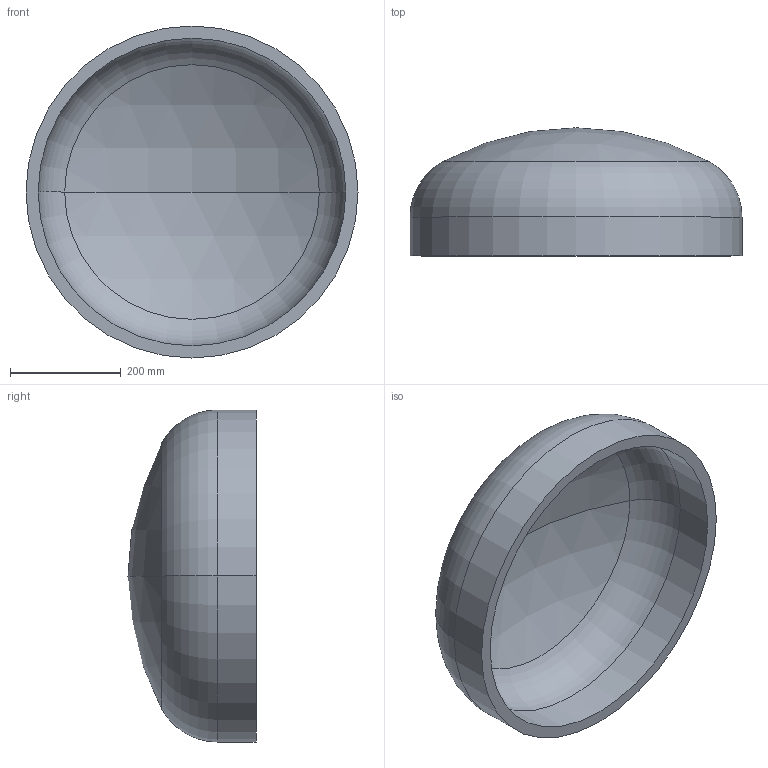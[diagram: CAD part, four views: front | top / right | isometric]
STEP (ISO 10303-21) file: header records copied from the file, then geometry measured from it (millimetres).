
FILE_DESCRIPTION (( 'STEP AP203' ), '1' );
FILE_NAME ('DIN 28013 Korbbogenform_-_Boden DIN 28013 - 600 x 70 - I - s=22.step', '2016-07-01T07:58:30', ( '' ), ( '' ), 'SwSTEP 2.0', 'SolidWorks 2013', '' );
FILE_SCHEMA (( 'CONFIG_CONTROL_DESIGN' ));
Length unit declared in the file: millimetre
Products named in the file (1): DIN 28013 Korbbogenform_-_Boden DIN 28013 - 600 x 70 - I - s=22
Bounding box: 600 x 231.49 x 600 mm (x, y, z)
Volume: 11003504.9 mm3; surface area: 1041280.6 mm2
Topology: 1 solids, 1 shells, 13 faces, 24 edges, 14 vertices
Faces by surface type: torus 4, cylinder 4, sphere 4, plane 1
Entity records: 407 total; most frequent: DIRECTION 72, CARTESIAN_POINT 52, ORIENTED_EDGE 48, AXIS2_PLACEMENT_3D 34, EDGE_CURVE 24, CIRCLE 20, VERTEX_POINT 14, EDGE_LOOP 14
